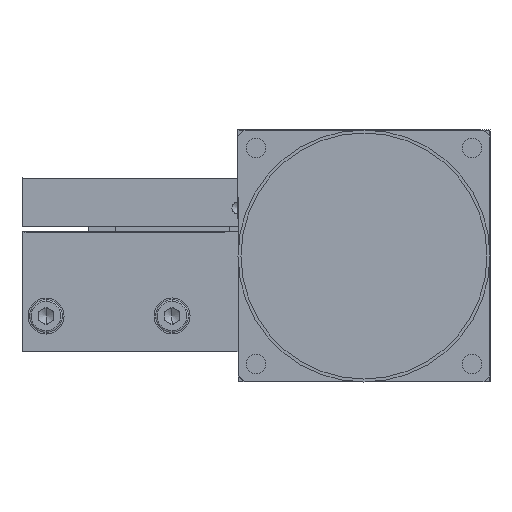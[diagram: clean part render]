
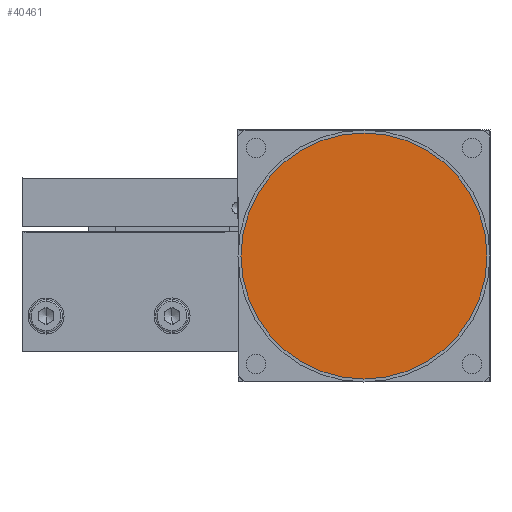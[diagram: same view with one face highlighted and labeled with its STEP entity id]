
A CAD part, front view. The second image highlights one B-rep face of the part: STEP entity #40461.
In plain terms, the highlighted planar face has unit normal (0, -1, 0).
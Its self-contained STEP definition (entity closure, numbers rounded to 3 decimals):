
#8583 = CARTESIAN_POINT ( 'NONE',  ( 252.49, 52.59, 43. ) ) ;
#8642 = CARTESIAN_POINT ( 'NONE',  ( 252.49, 52.59, 2. ) ) ;
#8643 = DIRECTION ( 'NONE',  ( 0., 0., -1. ) ) ;
#8644 = DIRECTION ( 'NONE',  ( 0., 1., 0. ) ) ;
#8645 = CARTESIAN_POINT ( 'NONE',  ( 252.49, 52.59, 22.5 ) ) ;
#8646 = AXIS2_PLACEMENT_3D ( 'NONE', #8645, #8644, #8643 ) ;
#8647 = CIRCLE ( 'NONE', #8646, 20.5 ) ;
#26530 = CARTESIAN_POINT ( 'NONE',  ( 252.49, 52.59, 22.5 ) ) ;
#26531 = AXIS2_PLACEMENT_3D ( 'NONE', #26530, #26724, #26727 ) ;
#26532 = CIRCLE ( 'NONE', #26531, 20.5 ) ;
#26724 = DIRECTION ( 'NONE',  ( 0., 1., 0. ) ) ;
#26727 = DIRECTION ( 'NONE',  ( 0., 0., -1. ) ) ;
#27119 = PLANE ( 'NONE',  #27158 ) ;
#27120 = FACE_OUTER_BOUND ( 'NONE', #40516, .T. ) ;
#27155 = DIRECTION ( 'NONE',  ( 0., 0., 1. ) ) ;
#27156 = DIRECTION ( 'NONE',  ( 0., 1., 0. ) ) ;
#27157 = CARTESIAN_POINT ( 'NONE',  ( 252.49, 52.59, 22.5 ) ) ;
#27158 = AXIS2_PLACEMENT_3D ( 'NONE', #27157, #27156, #27155 ) ;
#31016 = VERTEX_POINT ( 'NONE', #8583 ) ;
#31018 = EDGE_CURVE ( 'NONE', #31016, #31019, #8647, .T. ) ;
#31019 = VERTEX_POINT ( 'NONE', #8642 ) ;
#40461 = ADVANCED_FACE ( 'NONE', ( #27120 ), #27119, .F. ) ;
#40516 = EDGE_LOOP ( 'NONE', ( #40517, #40519 ) ) ;
#40517 = ORIENTED_EDGE ( 'NONE', *, *, #40518, .F. ) ;
#40518 = EDGE_CURVE ( 'NONE', #31019, #31016, #26532, .T. ) ;
#40519 = ORIENTED_EDGE ( 'NONE', *, *, #31018, .F. ) ;
